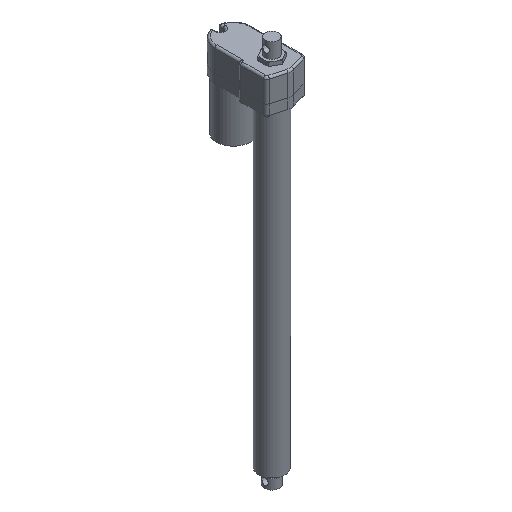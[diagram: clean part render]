
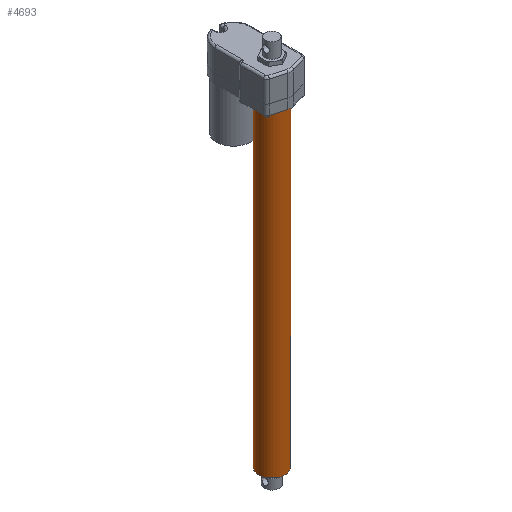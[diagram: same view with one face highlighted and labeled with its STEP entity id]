
A CAD part, isometric view. The second image highlights one B-rep face of the part: STEP entity #4693.
In plain terms, the highlighted cylindrical face has radius 25.5 mm (diameter 51 mm), a full revolution.
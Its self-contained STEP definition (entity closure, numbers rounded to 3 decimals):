
#50 = EDGE_LOOP ( 'NONE', ( #3236 ) ) ;
#51 = EDGE_LOOP ( 'NONE', ( #3235 ) ) ;
#1103 = CARTESIAN_POINT ( 'NONE',  ( 0., 0., 616.9 ) ) ;
#1110 = DIRECTION ( 'NONE',  ( 0., 0., 1. ) ) ;
#1111 = DIRECTION ( 'NONE',  ( 1., 0., 0. ) ) ;
#1124 = CARTESIAN_POINT ( 'NONE',  ( 0., 0., 0. ) ) ;
#1131 = DIRECTION ( 'NONE',  ( 0., 0., -1. ) ) ;
#1132 = DIRECTION ( 'NONE',  ( 1., 0., 0. ) ) ;
#1755 = DIRECTION ( 'NONE',  ( 1., 0., 0. ) ) ;
#1758 = CARTESIAN_POINT ( 'NONE',  ( 0., 0., -72.125 ) ) ;
#1759 = DIRECTION ( 'NONE',  ( 0., 0., 1. ) ) ;
#2070 = VERTEX_POINT ( 'NONE', #2071 ) ;
#2071 = CARTESIAN_POINT ( 'NONE',  ( 25.5, 0., 616.9 ) ) ;
#2084 = VERTEX_POINT ( 'NONE', #2085 ) ;
#2085 = CARTESIAN_POINT ( 'NONE',  ( 25.5, 0., 0. ) ) ;
#2722 = CIRCLE ( 'NONE', #4525, 25.5 ) ;
#2729 = CIRCLE ( 'NONE', #4532, 25.5 ) ;
#2976 = AXIS2_PLACEMENT_3D ( 'NONE', #1758, #1759, #1755 ) ;
#3235 = ORIENTED_EDGE ( 'NONE', *, *, #4362, .F. ) ;
#3236 = ORIENTED_EDGE ( 'NONE', *, *, #4369, .F. ) ;
#3803 = FACE_OUTER_BOUND ( 'NONE', #51, .T. ) ;
#3807 = FACE_OUTER_BOUND ( 'NONE', #50, .T. ) ;
#3813 = CYLINDRICAL_SURFACE ( 'NONE', #2976, 25.5 ) ;
#4362 = EDGE_CURVE ( 'NONE', #2070, #2070, #2722, .T. ) ;
#4369 = EDGE_CURVE ( 'NONE', #2084, #2084, #2729, .T. ) ;
#4525 = AXIS2_PLACEMENT_3D ( 'NONE', #1103, #1110, #1111 ) ;
#4532 = AXIS2_PLACEMENT_3D ( 'NONE', #1124, #1131, #1132 ) ;
#4693 = ADVANCED_FACE ( 'NONE', ( #3807, #3803 ), #3813, .T. ) ;
